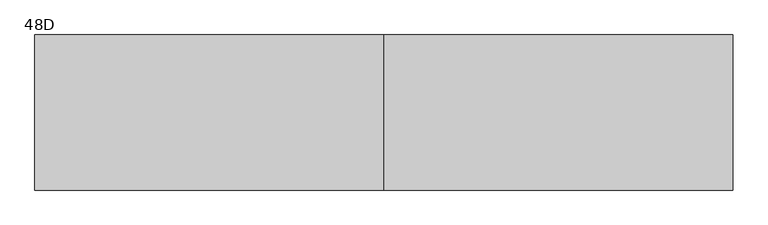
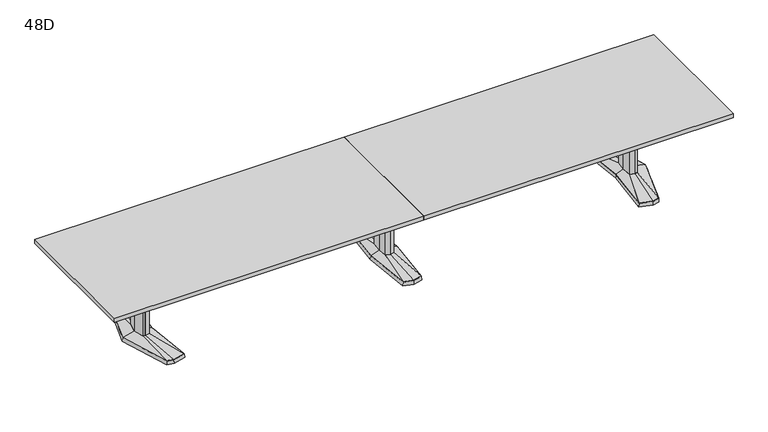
"""IFC4 building model written with IfcOpenShell, lengths in millimetres: furniture geometry, Coalesse_AM_Table_Conference_ETable2_Rectangular_18ft_AluminiumBase : 48D."""

from ifc_helpers import new_model, si_unit, frame, origin, place, context, project, spatial, polyline, outline, extrude, faceted_brep, source, transform, mapped, element, save
from ifc_brep_helpers import plane_surface, spline_surface, advanced_brep


def furniture_48d_8af77be7(model_context):
    return source(origin(), model_context, "Body", "SolidModel", [
        faceted_brep([(-81.2333791, -433.8053819, 38.1), (0.0, -455.556576, 38.1), (81.2333791, -433.8053819, 38.1), (119.0564774, 0.0, 38.1), (81.2333791, 433.8053819, 38.1), (0.0, 455.556576, 38.1), (-81.2333791, 433.8053819, 38.1), (-119.0564774, 0.0, 38.1), (-82.7182795, -435.0512063, 3.175), (-120.65, 0.0, 3.175), (-82.7182795, 435.0512063, 3.175), (0.0, 457.2, 3.175), (82.7182795, 435.0512063, 3.175), (120.65, 0.0, 3.175), (82.7182795, -435.0512063, 3.175), (0.0, -457.2, 3.175), (0.0, 429.2617927, 3.175), (-77.9676806, 408.3850278, 3.175), (-74.7019821, 382.9646737, 3.175), (0.0, 402.9670094, 3.175), (74.7019821, 382.9646737, 3.175), (77.9676806, 408.3850278, 3.175), (0.0, -429.2617927, 3.175), (77.9676806, -408.3850278, 3.175), (74.7019821, -382.9646737, 3.175), (0.0, -402.9670094, 3.175), (-74.7019821, -382.9646737, 3.175), (-77.9676806, -408.3850278, 3.175), (-71.8574262, 114.6326257, 3.175), (-82.5426076, 0.0, 3.175), (-71.8574262, -114.6326257, 3.175), (0.0, -133.8761372, 3.175), (71.8574262, -114.6326257, 3.175), (82.5426076, 0.0, 3.175), (71.8574262, 114.6326257, 3.175), (0.0, 133.8761372, 3.175), (0.0, 429.2617927, 0.0), (77.9676806, 408.3850278, 0.0), (74.7019821, 382.9646737, 0.0), (0.0, 402.9670094, 0.0), (-74.7019821, 382.9646737, 0.0), (-77.9676806, 408.3850278, 0.0), (0.0, -429.2617927, 0.0), (-77.9676806, -408.3850278, 0.0), (-74.7019821, -382.9646737, 0.0), (0.0, -402.9670094, 0.0), (74.7019821, -382.9646737, 0.0), (77.9676806, -408.3850278, 0.0), (-71.8574262, 114.6326257, 0.0), (0.0, 133.8761372, 0.0), (71.8574262, 114.6326257, 0.0), (82.5426076, 0.0, 0.0), (71.8574262, -114.6326257, 0.0), (0.0, -133.8761372, 0.0), (-71.8574262, -114.6326257, 0.0), (-82.5426076, 0.0, 0.0)], [[[0, 1, 2, 3, 4, 5, 6, 7]], [[8, 9, 10, 11, 12, 13, 14, 15], [16, 17, 18, 19, 20, 21], [22, 23, 24, 25, 26, 27], [28, 29, 30, 31, 32, 33, 34, 35]], [[1, 0, 8, 15]], [[2, 1, 15, 14]], [[3, 2, 14, 13]], [[4, 3, 13, 12]], [[5, 4, 12, 11]], [[6, 5, 11, 10]], [[7, 6, 10, 9]], [[0, 7, 9, 8]], [[36, 37, 38, 39, 40, 41]], [[42, 43, 44, 45, 46, 47]], [[48, 49, 50, 51, 52, 53, 54, 55]], [[36, 41, 17, 16]], [[41, 40, 18, 17]], [[40, 39, 19, 18]], [[39, 38, 20, 19]], [[38, 37, 21, 20]], [[37, 36, 16, 21]], [[42, 47, 23, 22]], [[47, 46, 24, 23]], [[46, 45, 25, 24]], [[45, 44, 26, 25]], [[44, 43, 27, 26]], [[43, 42, 22, 27]], [[48, 55, 29, 28]], [[55, 54, 30, 29]], [[54, 53, 31, 30]], [[53, 52, 32, 31]], [[52, 51, 33, 32]], [[51, 50, 34, 33]], [[50, 49, 35, 34]], [[49, 48, 28, 35]]]),
        faceted_brep([(-36.3832834, 84.6900825, 698.5), (-44.2774487, 0.0, 698.5), (-36.3832834, -84.6900825, 698.5), (0.0, -94.4335728, 698.5), (36.3832834, -84.6900825, 698.5), (44.2774487, 0.0, 698.5), (36.3832834, 84.6900825, 698.5), (0.0, 94.4335728, 698.5), (-36.3832834, 84.6900825, 63.5), (0.0, 94.4335728, 63.5), (36.3832834, 84.6900825, 63.5), (44.2774487, 0.0, 63.5), (36.3832834, -84.6900825, 63.5), (0.0, -94.4335728, 63.5), (-36.3832834, -84.6900825, 63.5), (-44.2774487, 0.0, 63.5)], [[[0, 1, 2, 3, 4, 5, 6, 7]], [[8, 9, 10, 11, 12, 13, 14, 15]], [[1, 0, 8, 15]], [[2, 1, 15, 14]], [[3, 2, 14, 13]], [[4, 3, 13, 12]], [[5, 4, 12, 11]], [[6, 5, 11, 10]], [[7, 6, 10, 9]], [[0, 7, 9, 8]]]),
        advanced_brep(
        [(-36.3832834, 84.6900825, 63.5), (-44.2774487, 0.0, 63.5), (-36.3832834, -84.6900825, 63.5), (0.0, -94.4335728, 63.5), (36.3832834, -84.6900825, 63.5), (44.2774487, 0.0, 63.5), (36.3832834, 84.6900825, 63.5), (0.0, 94.4335728, 63.5), (-81.2333791, 433.8053819, 38.1), (0.0, 455.556576, 38.1), (81.2333791, 433.8053819, 38.1), (119.0564774, 0.0, 38.1), (81.2333791, -433.8053819, 38.1), (0.0, -455.556576, 38.1), (-81.2333791, -433.8053819, 38.1), (-119.0564774, 0.0, 38.1)],
        [
            (0, 1),
            (1, 2),
            (2, 3),
            (3, 4),
            (4, 5),
            (5, 6),
            (6, 7),
            (7, 0),
            (8, 9),
            (9, 10),
            (10, 11),
            (11, 12),
            (12, 13),
            (13, 14),
            (14, 15),
            (15, 8),
            (15, 1),
            (0, 8),
            (14, 2),
            (13, 3),
            (12, 4),
            (11, 5),
            (10, 6),
            (9, 7),
        ],
        [
            plane_surface(frame((0.0, 0.0, 63.5), z_axis=(0.0, 0.0, 1.0000000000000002), x_axis=(-0.9659615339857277, -0.25868574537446, 0.0))),
            plane_surface(frame((0.0, 0.0, 38.1), z_axis=(0.0, 0.0, -1.0000000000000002), x_axis=(-0.9659615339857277, -0.25868574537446, 0.0))),
            spline_surface(1, 1, [[(-81.2333791, 433.8053819, 38.1), (-36.3832834, 84.6900825, 63.5)], [(-119.0564774, 0.0, 38.1), (-44.2774487, 0.0, 63.5)]], [2, 2], [2, 2], [0.0, 1.0], [0.0, 1.0]),
            spline_surface(1, 1, [[(-119.0564774, 0.0, 38.1), (-44.2774487, 0.0, 63.5)], [(-81.2333791, -433.8053819, 38.1), (-36.3832834, -84.6900825, 63.5)]], [2, 2], [2, 2], [0.0, 1.0], [0.0, 1.0]),
            spline_surface(1, 1, [[(-81.2333791, -433.8053819, 38.1), (-36.3832834, -84.6900825, 63.5)], [(0.0, -455.556576, 38.1), (0.0, -94.4335728, 63.5)]], [2, 2], [2, 2], [0.0, 1.0], [0.0, 1.0]),
            spline_surface(1, 1, [[(0.0, -455.556576, 38.1), (0.0, -94.4335728, 63.5)], [(81.2333791, -433.8053819, 38.1), (36.3832834, -84.6900825, 63.5)]], [2, 2], [2, 2], [0.0, 1.0], [0.0, 1.0]),
            spline_surface(1, 1, [[(81.2333791, -433.8053819, 38.1), (36.3832834, -84.6900825, 63.5)], [(119.0564774, 0.0, 38.1), (44.2774487, 0.0, 63.5)]], [2, 2], [2, 2], [0.0, 1.0], [0.0, 1.0]),
            spline_surface(1, 1, [[(119.0564774, 0.0, 38.1), (44.2774487, 0.0, 63.5)], [(81.2333791, 433.8053819, 38.1), (36.3832834, 84.6900825, 63.5)]], [2, 2], [2, 2], [0.0, 1.0], [0.0, 1.0]),
            spline_surface(1, 1, [[(81.2333791, 433.8053819, 38.1), (36.3832834, 84.6900825, 63.5)], [(0.0, 455.556576, 38.1), (0.0, 94.4335728, 63.5)]], [2, 2], [2, 2], [0.0, 1.0], [0.0, 1.0]),
            spline_surface(1, 1, [[(0.0, 455.556576, 38.1), (0.0, 94.4335728, 63.5)], [(-81.2333791, 433.8053819, 38.1), (-36.3832834, 84.6900825, 63.5)]], [2, 2], [2, 2], [0.0, 1.0], [0.0, 1.0]),
        ],
        [
            (0, [[1, 2, 3, 4, 5, 6, 7, 8]]),
            (1, [[9, 10, 11, 12, 13, 14, 15, 16]]),
            (2, [[-16, 17, -1, 18]]),
            (3, [[-15, 19, -2, -17]]),
            (4, [[-14, 20, -3, -19]]),
            (5, [[-13, 21, -4, -20]]),
            (6, [[-12, 22, -5, -21]]),
            (7, [[-11, 23, -6, -22]]),
            (8, [[-10, 24, -7, -23]]),
            (9, [[-9, -18, -8, -24]]),
        ],
    ),
        faceted_brep([(2125.0306835, 455.5848221, 38.1), (2015.4531277, 426.2263816, 38.1), (2056.6163717, 0.0, 38.1), (2015.4531277, -426.2263816, 38.1), (2125.0306835, -455.5848221, 38.1), (2181.1570396, -440.5478297, 38.1), (2318.4684269, 0.0, 38.1), (2181.1570396, 440.5478297, 38.1), (2125.0306754, 457.2283104, 3.175), (2182.4124472, 441.8549756, 3.175), (2320.13125, 0.0, 3.175), (2182.4124472, -441.8549756, 3.175), (2125.0306754, -457.2283104, 3.175), (2013.74375, -427.4118891, 3.175), (2055.0214856, 0.0, 3.175), (2013.74375, 427.4118891, 3.175), (2128.620115, 428.3273875, 3.175), (2023.5718228, 402.1057253, 3.175), (2031.690518, 377.985069, 3.175), (2132.2095466, 401.0699529, 3.175), (2182.7691725, 387.524361, 3.175), (2181.9631061, 414.0360954, 3.175), (2128.620115, -428.3273875, 3.175), (2181.9631061, -414.0360954, 3.175), (2182.7691725, -387.524361, 3.175), (2132.2095466, -401.0699529, 3.175), (2031.690518, -377.985069, 3.175), (2023.5718228, -402.1057253, 3.175), (2255.2153621, 0.0, 3.175), (2222.9459611, 120.4193755, 3.175), (2174.2987222, 133.471665, 3.175), (2094.4180526, 119.4176561, 3.175), (2083.2868466, 0.0, 3.175), (2094.4180526, -119.4176561, 3.175), (2174.2987222, -133.471665, 3.175), (2222.9459611, -120.4193755, 3.175), (2128.620115, 428.3273875, 0.0), (2181.9631061, 414.0360954, 0.0), (2182.7691725, 387.524361, 0.0), (2132.2095466, 401.0699529, 0.0), (2031.690518, 377.985069, 0.0), (2023.5718228, 402.1057253, 0.0), (2128.620115, -428.3273875, 0.0), (2023.5718228, -402.1057253, 0.0), (2031.690518, -377.985069, 0.0), (2132.2095466, -401.0699529, 0.0), (2182.7691725, -387.524361, 0.0), (2181.9631061, -414.0360954, 0.0), (2255.2153621, 0.0, 0.0), (2222.9459611, -120.4193755, 0.0), (2174.2987222, -133.471665, 0.0), (2094.4180526, -119.4176561, 0.0), (2083.2868466, 0.0, 0.0), (2094.4180526, 119.4176561, 0.0), (2174.2987222, 133.471665, 0.0), (2222.9459611, 120.4193755, 0.0)], [[[0, 1, 2, 3, 4, 5, 6, 7]], [[8, 9, 10, 11, 12, 13, 14, 15], [16, 17, 18, 19, 20, 21], [22, 23, 24, 25, 26, 27], [28, 29, 30, 31, 32, 33, 34, 35]], [[7, 9, 8, 0]], [[6, 10, 9, 7]], [[5, 11, 10, 6]], [[4, 12, 11, 5]], [[3, 13, 12, 4]], [[2, 14, 13, 3]], [[1, 15, 14, 2]], [[0, 8, 15, 1]], [[36, 37, 38, 39, 40, 41]], [[42, 43, 44, 45, 46, 47]], [[48, 49, 50, 51, 52, 53, 54, 55]], [[36, 16, 21, 37]], [[37, 21, 20, 38]], [[38, 20, 19, 39]], [[39, 19, 18, 40]], [[40, 18, 17, 41]], [[41, 17, 16, 36]], [[42, 22, 27, 43]], [[43, 27, 26, 44]], [[44, 26, 25, 45]], [[45, 25, 24, 46]], [[46, 24, 23, 47]], [[47, 23, 22, 42]], [[48, 28, 35, 49]], [[49, 35, 34, 50]], [[50, 34, 33, 51]], [[51, 33, 32, 52]], [[52, 32, 31, 53]], [[53, 31, 30, 54]], [[54, 30, 29, 55]], [[55, 29, 28, 48]]]),
        faceted_brep([(2215.7710836, 0.0, 698.5), (2191.8358546, 89.3188359, 698.5), (2174.9824984, 93.8406728, 698.5), (2172.5826511, 94.4845635, 698.5), (2129.655146, 86.9320037, 698.5), (2121.5520056, 0.0, 698.5), (2129.655146, -86.9320037, 698.5), (2172.5826511, -94.4845635, 698.5), (2174.9824984, -93.8406728, 698.5), (2191.8358546, -89.3188359, 698.5), (2215.7710836, 0.0, 63.5), (2191.8358546, -89.3188359, 63.5), (2174.9824984, -93.8406728, 63.5), (2172.5826511, -94.4845635, 63.5), (2129.655146, -86.9320037, 63.5), (2121.5520056, 0.0, 63.5), (2129.655146, 86.9320037, 63.5), (2172.5826511, 94.4845635, 63.5), (2174.9824984, 93.8406728, 63.5), (2191.8358546, 89.3188359, 63.5)], [[[0, 1, 2, 3, 4, 5, 6, 7, 8, 9]], [[10, 11, 12, 13, 14, 15, 16, 17, 18, 19]], [[9, 11, 10, 0]], [[8, 12, 11, 9]], [[7, 13, 12, 8]], [[6, 14, 13, 7]], [[5, 15, 14, 6]], [[4, 16, 15, 5]], [[3, 17, 16, 4]], [[2, 18, 17, 3]], [[1, 19, 18, 2]], [[0, 10, 19, 1]]]),
        advanced_brep(
        [(2172.5826511, 94.4845635, 63.5), (2129.655146, 86.9320037, 63.5), (2121.5520056, 0.0, 63.5), (2129.655146, -86.9320037, 63.5), (2172.5826511, -94.4845635, 63.5), (2191.8358546, -89.3188359, 63.5), (2215.7710836, 0.0, 63.5), (2191.8358546, 89.3188359, 63.5), (2125.0306835, 455.5848221, 38.1), (2181.1570396, 440.5478297, 38.1), (2318.4684269, 0.0, 38.1), (2181.1570396, -440.5478297, 38.1), (2125.0306835, -455.5848221, 38.1), (2015.4531277, -426.2263816, 38.1), (2056.6163717, 0.0, 38.1), (2015.4531277, 426.2263816, 38.1)],
        [
            (0, 1),
            (1, 2),
            (2, 3),
            (3, 4),
            (4, 5),
            (5, 6),
            (6, 7),
            (7, 0),
            (8, 9),
            (9, 10),
            (10, 11),
            (11, 12),
            (12, 13),
            (13, 14),
            (14, 15),
            (15, 8),
            (8, 0),
            (7, 9),
            (6, 10),
            (5, 11),
            (4, 12),
            (3, 13),
            (2, 14),
            (1, 15),
        ],
        [
            plane_surface(frame((2165.6837991, 0.0, 63.5), z_axis=(0.0, 0.0, 1.0), x_axis=(-0.25884244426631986, -0.9659195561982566, 0.0))),
            plane_surface(frame((2127.2958125, 0.0, 38.1), z_axis=(0.0, 0.0, -1.0), x_axis=(-0.25884244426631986, -0.9659195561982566, 0.0))),
            spline_surface(1, 1, [[(2125.0306835, 455.5848221, 38.1), (2181.1570396, 440.5478297, 38.1)], [(2172.5826511, 94.4845635, 63.5), (2191.8358546, 89.3188359, 63.5)]], [2, 2], [2, 2], [0.0, 1.0], [0.0, 1.0]),
            spline_surface(1, 1, [[(2181.1570396, 440.5478297, 38.1), (2318.4684269, 0.0, 38.1)], [(2191.8358546, 89.3188359, 63.5), (2215.7710836, 0.0, 63.5)]], [2, 2], [2, 2], [0.0, 1.0], [0.0, 1.0]),
            spline_surface(1, 1, [[(2318.4684269, 0.0, 38.1), (2181.1570396, -440.5478297, 38.1)], [(2215.7710836, 0.0, 63.5), (2191.8358546, -89.3188359, 63.5)]], [2, 2], [2, 2], [0.0, 1.0], [0.0, 1.0]),
            spline_surface(1, 1, [[(2181.1570396, -440.5478297, 38.1), (2125.0306835, -455.5848221, 38.1)], [(2191.8358546, -89.3188359, 63.5), (2172.5826511, -94.4845635, 63.5)]], [2, 2], [2, 2], [0.0, 1.0], [0.0, 1.0]),
            spline_surface(1, 1, [[(2125.0306835, -455.5848221, 38.1), (2015.4531277, -426.2263816, 38.1)], [(2172.5826511, -94.4845635, 63.5), (2129.655146, -86.9320037, 63.5)]], [2, 2], [2, 2], [0.0, 1.0], [0.0, 1.0]),
            spline_surface(1, 1, [[(2015.4531277, -426.2263816, 38.1), (2056.6163717, 0.0, 38.1)], [(2129.655146, -86.9320037, 63.5), (2121.5520056, 0.0, 63.5)]], [2, 2], [2, 2], [0.0, 1.0], [0.0, 1.0]),
            spline_surface(1, 1, [[(2056.6163717, 0.0, 38.1), (2015.4531277, 426.2263816, 38.1)], [(2121.5520056, 0.0, 63.5), (2129.655146, 86.9320037, 63.5)]], [2, 2], [2, 2], [0.0, 1.0], [0.0, 1.0]),
            spline_surface(1, 1, [[(2015.4531277, 426.2263816, 38.1), (2125.0306835, 455.5848221, 38.1)], [(2129.655146, 86.9320037, 63.5), (2172.5826511, 94.4845635, 63.5)]], [2, 2], [2, 2], [0.0, 1.0], [0.0, 1.0]),
        ],
        [
            (0, [[1, 2, 3, 4, 5, 6, 7, 8]]),
            (1, [[9, 10, 11, 12, 13, 14, 15, 16]]),
            (2, [[17, -8, 18, -9]]),
            (3, [[-18, -7, 19, -10]]),
            (4, [[-19, -6, 20, -11]]),
            (5, [[-20, -5, 21, -12]]),
            (6, [[-21, -4, 22, -13]]),
            (7, [[-22, -3, 23, -14]]),
            (8, [[-23, -2, 24, -15]]),
            (9, [[-24, -1, -17, -16]]),
        ],
    ),
        faceted_brep([(-2125.0306835, 455.5848221, 38.1), (-2181.1570396, 440.5478297, 38.1), (-2318.4684269, 0.0, 38.1), (-2181.1570396, -440.5478297, 38.1), (-2125.0306835, -455.5848221, 38.1), (-2015.4531277, -426.2263816, 38.1), (-2056.6163717, 0.0, 38.1), (-2015.4531277, 426.2263816, 38.1), (-2125.0306754, 457.2283104, 3.175), (-2013.74375, 427.4118891, 3.175), (-2055.0214856, 0.0, 3.175), (-2013.74375, -427.4118891, 3.175), (-2125.0306754, -457.2283104, 3.175), (-2182.4124472, -441.8549756, 3.175), (-2320.13125, 0.0, 3.175), (-2182.4124472, 441.8549756, 3.175), (-2128.620115, 428.3273875, 3.175), (-2181.9631061, 414.0360954, 3.175), (-2182.7691725, 387.524361, 3.175), (-2132.2095466, 401.0699529, 3.175), (-2031.690518, 377.985069, 3.175), (-2023.5718228, 402.1057253, 3.175), (-2128.620115, -428.3273875, 3.175), (-2023.5718228, -402.1057253, 3.175), (-2031.690518, -377.985069, 3.175), (-2132.2095466, -401.0699529, 3.175), (-2182.7691725, -387.524361, 3.175), (-2181.9631061, -414.0360954, 3.175), (-2255.2153621, 0.0, 3.175), (-2222.9459611, -120.4193755, 3.175), (-2174.2987222, -133.471665, 3.175), (-2094.4180526, -119.4176561, 3.175), (-2083.2868466, 0.0, 3.175), (-2094.4180526, 119.4176561, 3.175), (-2174.2987222, 133.471665, 3.175), (-2222.9459611, 120.4193755, 3.175), (-2128.620115, 428.3273875, 0.0), (-2023.5718228, 402.1057253, 0.0), (-2031.690518, 377.985069, 0.0), (-2132.2095466, 401.0699529, 0.0), (-2182.7691725, 387.524361, 0.0), (-2181.9631061, 414.0360954, 0.0), (-2128.620115, -428.3273875, 0.0), (-2181.9631061, -414.0360954, 0.0), (-2182.7691725, -387.524361, 0.0), (-2132.2095466, -401.0699529, 0.0), (-2031.690518, -377.985069, 0.0), (-2023.5718228, -402.1057253, 0.0), (-2255.2153621, 0.0, 0.0), (-2222.9459611, 120.4193755, 0.0), (-2174.2987222, 133.471665, 0.0), (-2094.4180526, 119.4176561, 0.0), (-2083.2868466, 0.0, 0.0), (-2094.4180526, -119.4176561, 0.0), (-2174.2987222, -133.471665, 0.0), (-2222.9459611, -120.4193755, 0.0)], [[[0, 1, 2, 3, 4, 5, 6, 7]], [[8, 9, 10, 11, 12, 13, 14, 15], [16, 17, 18, 19, 20, 21], [22, 23, 24, 25, 26, 27], [28, 29, 30, 31, 32, 33, 34, 35]], [[1, 0, 8, 15]], [[2, 1, 15, 14]], [[3, 2, 14, 13]], [[4, 3, 13, 12]], [[5, 4, 12, 11]], [[6, 5, 11, 10]], [[7, 6, 10, 9]], [[0, 7, 9, 8]], [[36, 37, 38, 39, 40, 41]], [[42, 43, 44, 45, 46, 47]], [[48, 49, 50, 51, 52, 53, 54, 55]], [[36, 41, 17, 16]], [[41, 40, 18, 17]], [[40, 39, 19, 18]], [[39, 38, 20, 19]], [[38, 37, 21, 20]], [[37, 36, 16, 21]], [[42, 47, 23, 22]], [[47, 46, 24, 23]], [[46, 45, 25, 24]], [[45, 44, 26, 25]], [[44, 43, 27, 26]], [[43, 42, 22, 27]], [[48, 55, 29, 28]], [[55, 54, 30, 29]], [[54, 53, 31, 30]], [[53, 52, 32, 31]], [[52, 51, 33, 32]], [[51, 50, 34, 33]], [[50, 49, 35, 34]], [[49, 48, 28, 35]]]),
        faceted_brep([(-2215.7710836, 0.0, 698.5), (-2191.8358546, -89.3188359, 698.5), (-2174.9824984, -93.8406728, 698.5), (-2172.5826511, -94.4845635, 698.5), (-2129.655146, -86.9320037, 698.5), (-2121.5520056, 0.0, 698.5), (-2129.655146, 86.9320037, 698.5), (-2172.5826511, 94.4845635, 698.5), (-2174.9824984, 93.8406728, 698.5), (-2191.8358546, 89.3188359, 698.5), (-2215.7710836, 0.0, 63.5), (-2191.8358546, 89.3188359, 63.5), (-2174.9824984, 93.8406728, 63.5), (-2172.5826511, 94.4845635, 63.5), (-2129.655146, 86.9320037, 63.5), (-2121.5520056, 0.0, 63.5), (-2129.655146, -86.9320037, 63.5), (-2172.5826511, -94.4845635, 63.5), (-2174.9824984, -93.8406728, 63.5), (-2191.8358546, -89.3188359, 63.5)], [[[0, 1, 2, 3, 4, 5, 6, 7, 8, 9]], [[10, 11, 12, 13, 14, 15, 16, 17, 18, 19]], [[1, 0, 10, 19]], [[2, 1, 19, 18]], [[3, 2, 18, 17]], [[4, 3, 17, 16]], [[5, 4, 16, 15]], [[6, 5, 15, 14]], [[7, 6, 14, 13]], [[8, 7, 13, 12]], [[9, 8, 12, 11]], [[0, 9, 11, 10]]]),
        advanced_brep(
        [(-2172.5826511, 94.4845635, 63.5), (-2191.8358546, 89.3188359, 63.5), (-2215.7710836, 0.0, 63.5), (-2191.8358546, -89.3188359, 63.5), (-2172.5826511, -94.4845635, 63.5), (-2129.655146, -86.9320037, 63.5), (-2121.5520056, 0.0, 63.5), (-2129.655146, 86.9320037, 63.5), (-2125.0306835, 455.5848221, 38.1), (-2015.4531277, 426.2263816, 38.1), (-2056.6163717, 0.0, 38.1), (-2015.4531277, -426.2263816, 38.1), (-2125.0306835, -455.5848221, 38.1), (-2181.1570396, -440.5478297, 38.1), (-2318.4684269, 0.0, 38.1), (-2181.1570396, 440.5478297, 38.1)],
        [
            (0, 1),
            (1, 2),
            (2, 3),
            (3, 4),
            (4, 5),
            (5, 6),
            (6, 7),
            (7, 0),
            (8, 9),
            (9, 10),
            (10, 11),
            (11, 12),
            (12, 13),
            (13, 14),
            (14, 15),
            (15, 8),
            (15, 1),
            (0, 8),
            (14, 2),
            (13, 3),
            (12, 4),
            (11, 5),
            (10, 6),
            (9, 7),
        ],
        [
            plane_surface(frame((-2165.6837991, 0.0, 63.5), z_axis=(0.0, 0.0, 1.0), x_axis=(0.25884244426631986, -0.9659195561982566, 0.0))),
            plane_surface(frame((-2127.2958125, 0.0, 38.1), z_axis=(0.0, 0.0, -1.0), x_axis=(0.25884244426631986, -0.9659195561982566, 0.0))),
            spline_surface(1, 1, [[(-2125.0306835, 455.5848221, 38.1), (-2172.5826511, 94.4845635, 63.5)], [(-2181.1570396, 440.5478297, 38.1), (-2191.8358546, 89.3188359, 63.5)]], [2, 2], [2, 2], [0.0, 1.0], [0.0, 1.0]),
            spline_surface(1, 1, [[(-2181.1570396, 440.5478297, 38.1), (-2191.8358546, 89.3188359, 63.5)], [(-2318.4684269, 0.0, 38.1), (-2215.7710836, 0.0, 63.5)]], [2, 2], [2, 2], [0.0, 1.0], [0.0, 1.0]),
            spline_surface(1, 1, [[(-2318.4684269, 0.0, 38.1), (-2215.7710836, 0.0, 63.5)], [(-2181.1570396, -440.5478297, 38.1), (-2191.8358546, -89.3188359, 63.5)]], [2, 2], [2, 2], [0.0, 1.0], [0.0, 1.0]),
            spline_surface(1, 1, [[(-2181.1570396, -440.5478297, 38.1), (-2191.8358546, -89.3188359, 63.5)], [(-2125.0306835, -455.5848221, 38.1), (-2172.5826511, -94.4845635, 63.5)]], [2, 2], [2, 2], [0.0, 1.0], [0.0, 1.0]),
            spline_surface(1, 1, [[(-2125.0306835, -455.5848221, 38.1), (-2172.5826511, -94.4845635, 63.5)], [(-2015.4531277, -426.2263816, 38.1), (-2129.655146, -86.9320037, 63.5)]], [2, 2], [2, 2], [0.0, 1.0], [0.0, 1.0]),
            spline_surface(1, 1, [[(-2015.4531277, -426.2263816, 38.1), (-2129.655146, -86.9320037, 63.5)], [(-2056.6163717, 0.0, 38.1), (-2121.5520056, 0.0, 63.5)]], [2, 2], [2, 2], [0.0, 1.0], [0.0, 1.0]),
            spline_surface(1, 1, [[(-2056.6163717, 0.0, 38.1), (-2121.5520056, 0.0, 63.5)], [(-2015.4531277, 426.2263816, 38.1), (-2129.655146, 86.9320037, 63.5)]], [2, 2], [2, 2], [0.0, 1.0], [0.0, 1.0]),
            spline_surface(1, 1, [[(-2015.4531277, 426.2263816, 38.1), (-2129.655146, 86.9320037, 63.5)], [(-2125.0306835, 455.5848221, 38.1), (-2172.5826511, 94.4845635, 63.5)]], [2, 2], [2, 2], [0.0, 1.0], [0.0, 1.0]),
        ],
        [
            (0, [[1, 2, 3, 4, 5, 6, 7, 8]]),
            (1, [[9, 10, 11, 12, 13, 14, 15, 16]]),
            (2, [[-16, 17, -1, 18]]),
            (3, [[-15, 19, -2, -17]]),
            (4, [[-14, 20, -3, -19]]),
            (5, [[-13, 21, -4, -20]]),
            (6, [[-12, 22, -5, -21]]),
            (7, [[-11, 23, -6, -22]]),
            (8, [[-10, 24, -7, -23]]),
            (9, [[-9, -18, -8, -24]]),
        ],
    ),
        extrude(outline(polyline([(96.8375, 698.5), (103.1875, 698.5), (103.1875, 476.25), (-103.1875, 476.25), (-103.1875, 698.5), (-96.8375, 698.5), (-96.8375, 482.6), (96.8375, 482.6), (96.8375, 698.5)])), frame((44.2774487, 0.0, 0.0), z_axis=(1.0, 0.0, 0.0), x_axis=(0.0, 1.0, 0.0)), (0.0, 0.0, 1.0), 2077.4163013),
        extrude(outline(polyline([(2743.2, 609.6), (2743.2, -609.6), (0.0, -609.6), (0.0, 609.6), (2743.2, 609.6)])), frame((0.0, 0.0, 698.5), z_axis=(0.0, 0.0, 1.0), x_axis=(1.0, 0.0, 0.0)), (0.0, 0.0, 1.0), 38.1),
        extrude(outline(polyline([(0.0, 609.6), (0.0, -609.6), (-2743.2, -609.6), (-2743.2, 609.6), (0.0, 609.6)])), frame((0.0, 0.0, 698.5), z_axis=(0.0, 0.0, 1.0), x_axis=(1.0, 0.0, 0.0)), (0.0, 0.0, 1.0), 38.1),
        extrude(outline(polyline([(96.8375, 698.5), (103.1875, 698.5), (103.1875, 476.25), (-103.1875, 476.25), (-103.1875, 698.5), (-96.8375, 698.5), (-96.8375, 482.6), (96.8375, 482.6), (96.8375, 698.5)])), frame((-2121.69375, 0.0, 0.0), z_axis=(1.0, 0.0, 0.0), x_axis=(0.0, 1.0, 0.0)), (0.0, 0.0, 1.0), 2077.4163013),
    ])


if __name__ == "__main__":
    model = new_model("IFC4")
    model_context = context("Model", 3, world=origin())
    ifc_project = project(units=[si_unit("LENGTHUNIT", "METRE", prefix="MILLI")], contexts=[model_context])
    site = spatial("IfcSite", under=ifc_project)
    building = spatial("IfcBuilding", under=site)
    placement = place(None, origin())
    furniture_48d_shape = furniture_48d_8af77be7(model_context)
    element("IfcFurniture", 1, ObjectType="Coalesse_AM_Table_Conference_ETable2_Rectangular_18ft_AluminiumBase : 48D", at=placement, inside=building, context=model_context, shape_type="MappedRepresentation", body=[
        mapped(furniture_48d_shape, transform((0.0, 0.0, 0.0), x_axis=(1.0, 0.0, 0.0), y_axis=(0.0, 1.0, 0.0), z_axis=(0.0, 0.0, 1.0))),
    ])
    save(model, "model.ifc")
